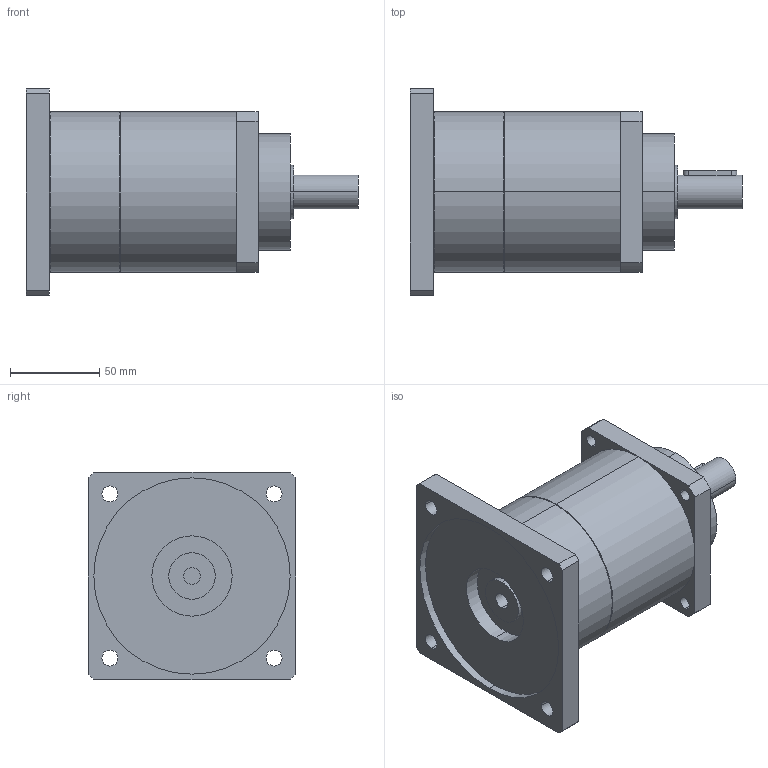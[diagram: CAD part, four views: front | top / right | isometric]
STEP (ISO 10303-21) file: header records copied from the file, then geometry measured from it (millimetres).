
FILE_DESCRIPTION(('CoCreate Modeling STEP Export'),'2;1');
FILE_NAME('GPT90_ig-9-12-16-20-25-28-35-40-50-70-100_19_B5T_9.525_P08.stp','2015-02-04T11:34:56',(''),(''),'CoCreate Modeling STEP processor for AP214 (Solid Model)','CoCreate Modeling 16.00C 25-Feb-2009 (C) Parametric Technology GmbH','');
FILE_SCHEMA(('AUTOMOTIVE_DESIGN { 1 0 10303 214 1 1 1 1 }'));
Length unit declared in the file: millimetre
Products named in the file (2): GPT90_ig-9-12-16-20-25-28-35-40-50-70-100_19_B5T_9.525_P08
Assembly tree (1 placements, depth 2):
  GPT90_ig-9-12-16-20-25-28-35-40-50-70-100_19_B5T_9.525_P08
    GPT90_ig-9-12-16-20-25-28-35-40-50-70-100_19_B5T_9.525_P08
Bounding box: 186 x 116 x 116 mm (x, y, z)
Volume: 948189.3 mm3; surface area: 82710.8 mm2
Topology: 1 solids, 1 shells, 77 faces, 206 edges, 141 vertices
Faces by surface type: cylinder 46, plane 27, cone 4
Entity records: 2596 total; most frequent: CARTESIAN_POINT 742, ORIENTED_EDGE 412, DIRECTION 324, EDGE_CURVE 206, VERTEX_POINT 141, AXIS2_PLACEMENT_3D 120, EDGE_LOOP 103, VECTOR 84
